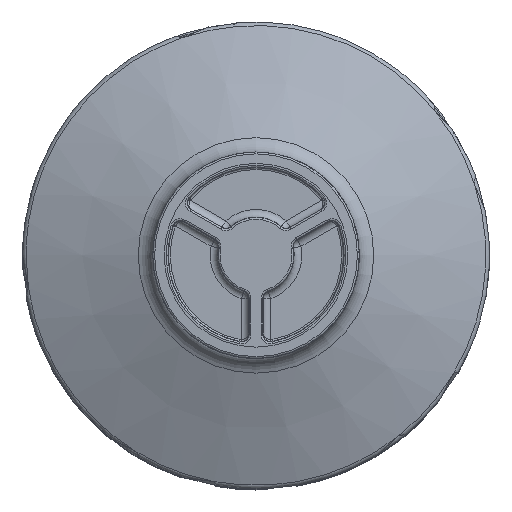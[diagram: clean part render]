
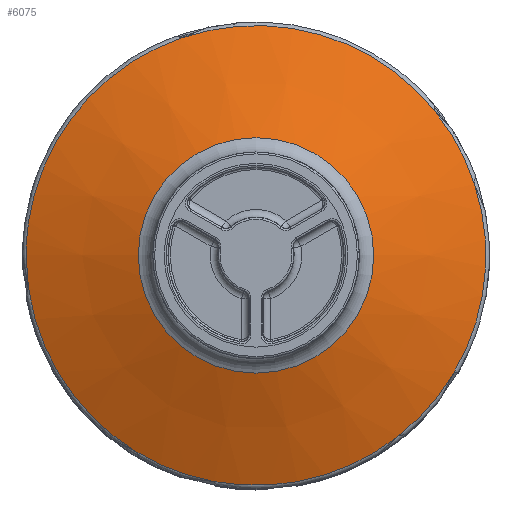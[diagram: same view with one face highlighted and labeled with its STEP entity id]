
A CAD part, top view. The second image highlights one B-rep face of the part: STEP entity #6075.
In plain terms, the highlighted conical face has half-angle 68 degrees and reference radius 30.752 mm.
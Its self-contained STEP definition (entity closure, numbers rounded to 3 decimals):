
#4763=CONICAL_SURFACE('',#17361,30.752,68.);
#6075=ADVANCED_FACE('',(#6814,#6815),#4763,.T.);
#6814=FACE_BOUND('',#7349,.T.);
#6815=FACE_BOUND('',#7350,.T.);
#7349=EDGE_LOOP('',(#11533));
#7350=EDGE_LOOP('',(#11534));
#8889=B_SPLINE_CURVE_WITH_KNOTS('',3,(#26063,#26064,#26065,#26066,#26067,
#26068,#26069,#26070,#26071,#26072,#26073,#26074,#26075,#26076,#26077,#26078,
#26079,#26080,#26081,#26082,#26083,#26084,#26085,#26086,#26087,#26088,#26089,
#26090,#26091,#26092,#26093,#26094,#26095,#26096),.UNSPECIFIED.,.T.,.F.,
(2,2,2,2,2,2,2,2,2,2,2,2,2,2,2,2,2,2,2),(-0.063,0.,0.063,
0.125,0.188,0.25,0.313,0.375,0.438,0.5,0.563,0.625,0.688,0.75,0.813,
0.875,0.938,1.,1.063),.UNSPECIFIED.);
#11533=ORIENTED_EDGE('',*,*,#15728,.F.);
#11534=ORIENTED_EDGE('',*,*,#15729,.T.);
#14110=VERTEX_POINT('',#26061);
#14111=VERTEX_POINT('',#26097);
#15728=EDGE_CURVE('',#14110,#14110,#16792,.T.);
#15729=EDGE_CURVE('',#14111,#14111,#8889,.T.);
#16792=CIRCLE('',#17359,30.752);
#17359=AXIS2_PLACEMENT_3D('',#26060,#18788,#18789);
#17361=AXIS2_PLACEMENT_3D('',#26098,#18792,#18793);
#18788=DIRECTION('',(0.,0.,1.));
#18789=DIRECTION('',(-1.,0.,0.));
#18792=DIRECTION('',(0.,0.,-1.));
#18793=DIRECTION('',(-1.,0.,0.));
#26060=CARTESIAN_POINT('',(0.,0.,100.406));
#26061=CARTESIAN_POINT('',(-30.752,0.,100.406));
#26063=CARTESIAN_POINT('',(-60.062,7.862,88.565));
#26064=CARTESIAN_POINT('',(-60.062,-7.862,88.565));
#26065=CARTESIAN_POINT('',(-58.499,-15.721,88.565));
#26066=CARTESIAN_POINT('',(-52.481,-30.248,88.565));
#26067=CARTESIAN_POINT('',(-48.03,-36.911,88.565));
#26068=CARTESIAN_POINT('',(-36.911,-48.03,88.565));
#26069=CARTESIAN_POINT('',(-30.248,-52.481,88.565));
#26070=CARTESIAN_POINT('',(-15.721,-58.499,88.565));
#26071=CARTESIAN_POINT('',(-7.862,-60.062,88.565));
#26072=CARTESIAN_POINT('',(7.862,-60.062,88.565));
#26073=CARTESIAN_POINT('',(15.721,-58.499,88.565));
#26074=CARTESIAN_POINT('',(30.248,-52.481,88.565));
#26075=CARTESIAN_POINT('',(36.911,-48.03,88.565));
#26076=CARTESIAN_POINT('',(48.03,-36.911,88.565));
#26077=CARTESIAN_POINT('',(52.481,-30.248,88.565));
#26078=CARTESIAN_POINT('',(58.499,-15.721,88.565));
#26079=CARTESIAN_POINT('',(60.062,-7.862,88.565));
#26080=CARTESIAN_POINT('',(60.062,7.862,88.565));
#26081=CARTESIAN_POINT('',(58.499,15.721,88.565));
#26082=CARTESIAN_POINT('',(52.481,30.248,88.565));
#26083=CARTESIAN_POINT('',(48.03,36.911,88.565));
#26084=CARTESIAN_POINT('',(36.911,48.03,88.565));
#26085=CARTESIAN_POINT('',(30.248,52.481,88.565));
#26086=CARTESIAN_POINT('',(15.721,58.499,88.565));
#26087=CARTESIAN_POINT('',(7.862,60.062,88.565));
#26088=CARTESIAN_POINT('',(-7.862,60.062,88.565));
#26089=CARTESIAN_POINT('',(-15.721,58.499,88.565));
#26090=CARTESIAN_POINT('',(-30.248,52.481,88.565));
#26091=CARTESIAN_POINT('',(-36.911,48.03,88.565));
#26092=CARTESIAN_POINT('',(-48.03,36.911,88.565));
#26093=CARTESIAN_POINT('',(-52.481,30.248,88.565));
#26094=CARTESIAN_POINT('',(-58.499,15.721,88.565));
#26095=CARTESIAN_POINT('',(-60.062,7.862,88.565));
#26096=CARTESIAN_POINT('',(-60.062,-7.862,88.565));
#26097=CARTESIAN_POINT('',(-60.062,0.,88.565));
#26098=CARTESIAN_POINT('',(0.,0.,100.406));
